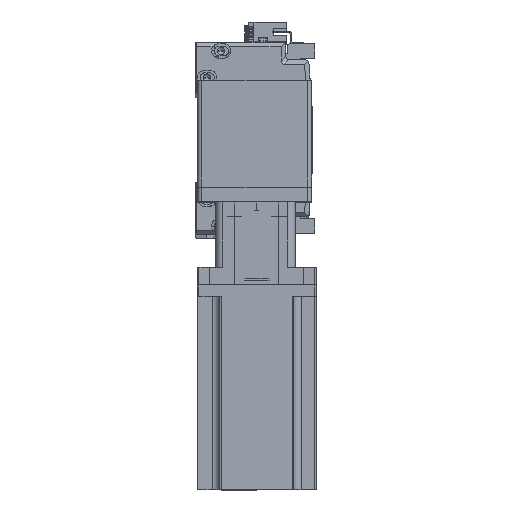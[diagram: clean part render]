
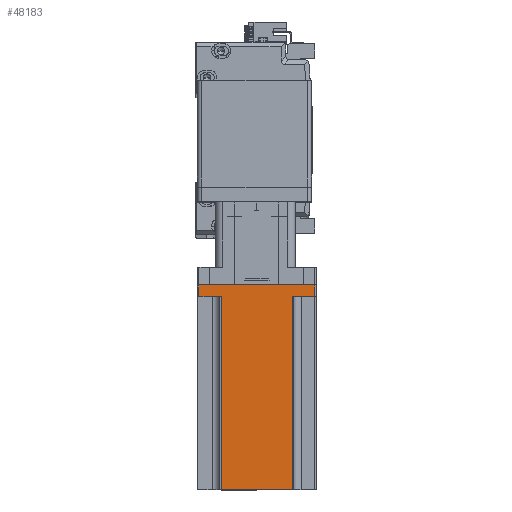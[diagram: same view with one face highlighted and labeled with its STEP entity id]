
A CAD part, top view. The second image highlights one B-rep face of the part: STEP entity #48183.
In plain terms, the highlighted planar face has unit normal (0, 0, 1) as drawn and (0, 1, 0) by its records, which use the part's own axes.
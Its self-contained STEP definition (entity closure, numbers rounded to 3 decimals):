
#334 = LINE ( 'NONE', #3556, #21183 ) ;
#838 = VERTEX_POINT ( 'NONE', #11097 ) ;
#1698 = CARTESIAN_POINT ( 'NONE',  ( -24., 40., 138.3 ) ) ;
#2069 = DIRECTION ( 'NONE',  ( 1., 0., 0. ) ) ;
#2438 = EDGE_LOOP ( 'NONE', ( #13583, #15302, #24009, #5365, #3957, #27926, #25436, #15871 ) ) ;
#2722 = DIRECTION ( 'NONE',  ( 0., -1., 0. ) ) ;
#3556 = CARTESIAN_POINT ( 'NONE',  ( 40., 40., 0. ) ) ;
#3957 = ORIENTED_EDGE ( 'NONE', *, *, #44997, .F. ) ;
#5267 = CARTESIAN_POINT ( 'NONE',  ( -24., 40., 138.3 ) ) ;
#5365 = ORIENTED_EDGE ( 'NONE', *, *, #18157, .T. ) ;
#5499 = VERTEX_POINT ( 'NONE', #17061 ) ;
#6014 = CARTESIAN_POINT ( 'NONE',  ( -24., 40., 8. ) ) ;
#7786 = DIRECTION ( 'NONE',  ( 0., 0., -1. ) ) ;
#8116 = VECTOR ( 'NONE', #21700, 1000. ) ;
#9706 = EDGE_CURVE ( 'NONE', #31047, #17215, #334, .T. ) ;
#10006 = VECTOR ( 'NONE', #2069, 1000. ) ;
#10198 = FACE_OUTER_BOUND ( 'NONE', #2438, .T. ) ;
#11092 = VERTEX_POINT ( 'NONE', #1698 ) ;
#11097 = CARTESIAN_POINT ( 'NONE',  ( 39., 40., 8. ) ) ;
#11270 = VERTEX_POINT ( 'NONE', #50028 ) ;
#11573 = CARTESIAN_POINT ( 'NONE',  ( -39., 40., 0. ) ) ;
#13583 = ORIENTED_EDGE ( 'NONE', *, *, #43696, .T. ) ;
#14237 = CARTESIAN_POINT ( 'NONE',  ( 24., 40., 138.3 ) ) ;
#14581 = CARTESIAN_POINT ( 'NONE',  ( -39., 40., 138.3 ) ) ;
#15302 = ORIENTED_EDGE ( 'NONE', *, *, #35140, .T. ) ;
#15871 = ORIENTED_EDGE ( 'NONE', *, *, #28901, .T. ) ;
#17061 = CARTESIAN_POINT ( 'NONE',  ( -39., 40., 8. ) ) ;
#17215 = VERTEX_POINT ( 'NONE', #11573 ) ;
#18157 = EDGE_CURVE ( 'NONE', #33429, #11270, #53376, .T. ) ;
#18786 = DIRECTION ( 'NONE',  ( 0., 0., 1. ) ) ;
#21183 = VECTOR ( 'NONE', #36685, 1000. ) ;
#21700 = DIRECTION ( 'NONE',  ( -1., 0., 0. ) ) ;
#22258 = VECTOR ( 'NONE', #7786, 1000. ) ;
#22523 = EDGE_CURVE ( 'NONE', #838, #31047, #33322, .T. ) ;
#24009 = ORIENTED_EDGE ( 'NONE', *, *, #49703, .F. ) ;
#25436 = ORIENTED_EDGE ( 'NONE', *, *, #9706, .T. ) ;
#27013 = CARTESIAN_POINT ( 'NONE',  ( -25., 40., 8. ) ) ;
#27682 = CARTESIAN_POINT ( 'NONE',  ( 40., 40., 138.3 ) ) ;
#27926 = ORIENTED_EDGE ( 'NONE', *, *, #22523, .T. ) ;
#27928 = AXIS2_PLACEMENT_3D ( 'NONE', #27682, #2722, #31874 ) ;
#28063 = VECTOR ( 'NONE', #48476, 1000. ) ;
#28901 = EDGE_CURVE ( 'NONE', #17215, #5499, #50574, .T. ) ;
#31047 = VERTEX_POINT ( 'NONE', #43649 ) ;
#31874 = DIRECTION ( 'NONE',  ( 1., 0., 0. ) ) ;
#32141 = LINE ( 'NONE', #27013, #10006 ) ;
#33322 = LINE ( 'NONE', #49212, #22258 ) ;
#33429 = VERTEX_POINT ( 'NONE', #44517 ) ;
#34161 = LINE ( 'NONE', #5267, #42588 ) ;
#35140 = EDGE_CURVE ( 'NONE', #52745, #11092, #34161, .T. ) ;
#36685 = DIRECTION ( 'NONE',  ( -1., 0., 0. ) ) ;
#39140 = DIRECTION ( 'NONE',  ( 0., 0., -1. ) ) ;
#39146 = LINE ( 'NONE', #52666, #28063 ) ;
#39561 = VECTOR ( 'NONE', #18786, 1000. ) ;
#40019 = LINE ( 'NONE', #50750, #8116 ) ;
#42304 = VECTOR ( 'NONE', #39140, 1000. ) ;
#42588 = VECTOR ( 'NONE', #50913, 1000. ) ;
#43649 = CARTESIAN_POINT ( 'NONE',  ( 39., 40., 0. ) ) ;
#43696 = EDGE_CURVE ( 'NONE', #5499, #52745, #32141, .T. ) ;
#44517 = CARTESIAN_POINT ( 'NONE',  ( 24., 40., 138.3 ) ) ;
#44997 = EDGE_CURVE ( 'NONE', #838, #11270, #39146, .T. ) ;
#48183 = ADVANCED_FACE ( 'NONE', ( #10198 ), #48188, .F. ) ;
#48188 = PLANE ( 'NONE',  #27928 ) ;
#48476 = DIRECTION ( 'NONE',  ( -1., 0., 0. ) ) ;
#49212 = CARTESIAN_POINT ( 'NONE',  ( 39., 40., 138.3 ) ) ;
#49703 = EDGE_CURVE ( 'NONE', #33429, #11092, #40019, .T. ) ;
#50028 = CARTESIAN_POINT ( 'NONE',  ( 24., 40., 8. ) ) ;
#50574 = LINE ( 'NONE', #14581, #39561 ) ;
#50750 = CARTESIAN_POINT ( 'NONE',  ( 40., 40., 138.3 ) ) ;
#50913 = DIRECTION ( 'NONE',  ( 0., 0., 1. ) ) ;
#52666 = CARTESIAN_POINT ( 'NONE',  ( 25., 40., 8. ) ) ;
#52745 = VERTEX_POINT ( 'NONE', #6014 ) ;
#53376 = LINE ( 'NONE', #14237, #42304 ) ;
